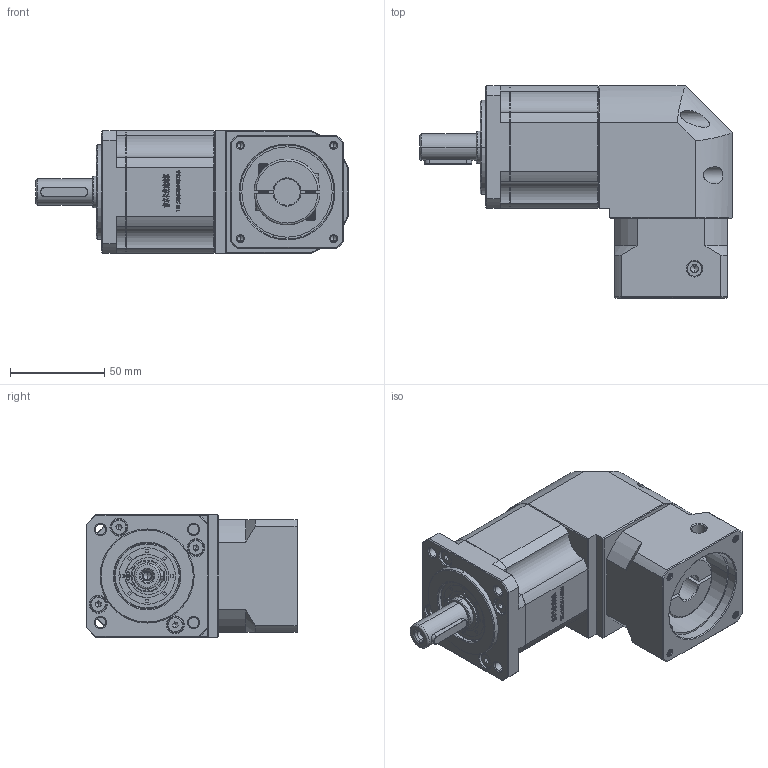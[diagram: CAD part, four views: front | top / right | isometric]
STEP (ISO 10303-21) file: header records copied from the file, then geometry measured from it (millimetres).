
FILE_DESCRIPTION (( 'STEP AP214' ), '1' );
FILE_NAME ('ZBR60-D14-L2-14-50-70-M4.STEP', '2022-04-19T08:51:58', ( '' ), ( 'Microsoft' ), 'SwSTEP 2.0', 'SolidWorks 2016', '' );
FILE_SCHEMA (( 'AUTOMOTIVE_DESIGN' ));
Length unit declared in the file: millimetre
Products named in the file (1): ZBR60-D14-L2-14-50-70-M4
Bounding box: 166 x 112.7 x 65 mm (x, y, z)
Volume: 586147.1 mm3; surface area: 81353.6 mm2
Topology: 5 solids, 5 shells, 2835 faces, 7661 edges, 4962 vertices
Faces by surface type: plane 1472, bspline 591, cylinder 424, cone 326, torus 22
Entity records: 152853 total; most frequent: CARTESIAN_POINT 54835, ORIENTED_EDGE 15262, DIRECTION 11585, EDGE_CURVE 7631, VECTOR 5037, LINE 5037, VERTEX_POINT 4962, AXIS2_PLACEMENT_3D 3274
